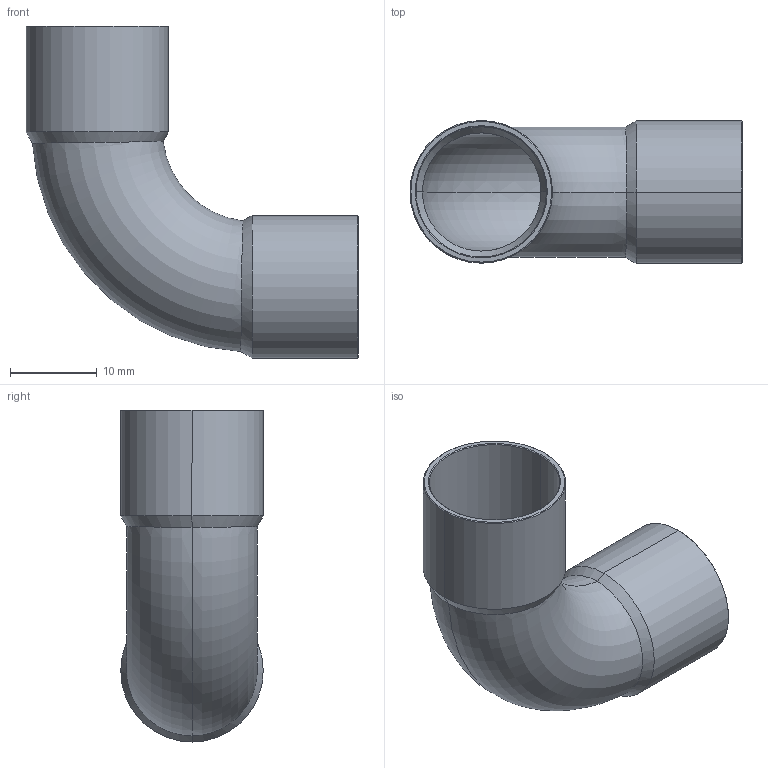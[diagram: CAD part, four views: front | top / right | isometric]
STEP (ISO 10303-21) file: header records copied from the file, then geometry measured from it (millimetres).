
FILE_DESCRIPTION((''),'2;1');
FILE_NAME('D:\5002\15002a15.stp','2005-10-04T11:29:23',('Kris'),(''),'Autodesk Inventor 8','Autodesk Inventor 8','');
FILE_SCHEMA(('AUTOMOTIVE_DESIGN { 1 0 10303 214 1 1 1 1 }'));
Length unit declared in the file: millimetre
Products named in the file (1): 15002a15
Bounding box: 38.2 x 16.4 x 38.2 mm (x, y, z)
Volume: 1733.2 mm3; surface area: 5012.4 mm2
Topology: 1 solids, 1 shells, 30 faces, 60 edges, 32 vertices
Faces by surface type: cone 12, bspline 9, torus 4, cylinder 4, plane 1
Entity records: 1027 total; most frequent: CARTESIAN_POINT 414, DIRECTION 124, ORIENTED_EDGE 120, EDGE_CURVE 60, AXIS2_PLACEMENT_3D 50, VERTEX_POINT 32, EDGE_LOOP 32, FACE_OUTER_BOUND 30
